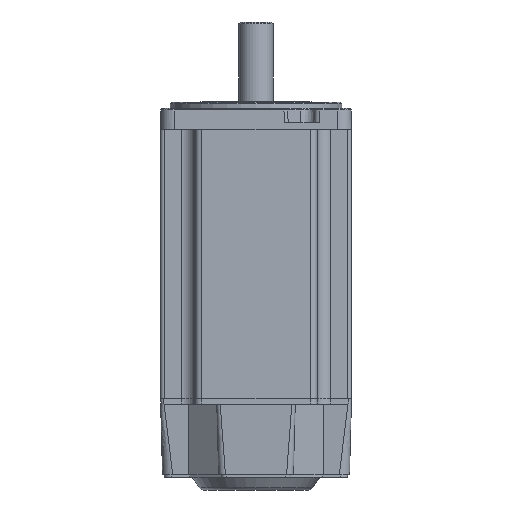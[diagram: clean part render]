
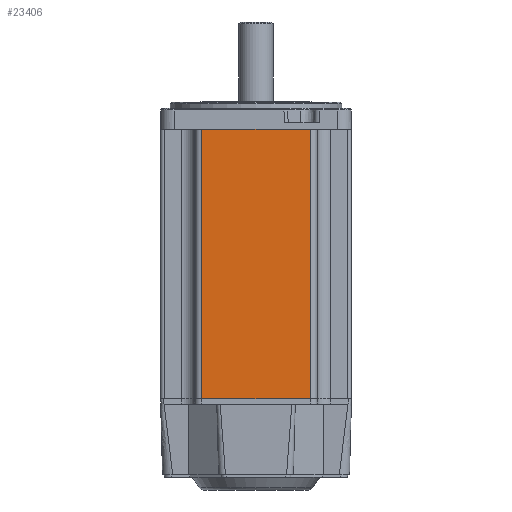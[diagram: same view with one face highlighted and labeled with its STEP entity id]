
A CAD part, front view. The second image highlights one B-rep face of the part: STEP entity #23406.
In plain terms, the highlighted planar face has unit normal (0, -1, 0).
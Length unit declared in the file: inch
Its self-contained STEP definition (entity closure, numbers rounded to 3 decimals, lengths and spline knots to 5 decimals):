
#21517=CARTESIAN_POINT('',(0.995,-1.75,-4.94));
#21518=VERTEX_POINT('',#21517);
#21525=CARTESIAN_POINT('',(-0.995,-1.75,-4.94));
#21526=VERTEX_POINT('',#21525);
#21527=CARTESIAN_POINT('',(-0.995,-1.75,-4.94));
#21528=DIRECTION('',(1.0,0.0,0.0));
#21529=VECTOR('',#21528,1.99);
#21530=LINE('',#21527,#21529);
#21531=EDGE_CURVE('',#21526,#21518,#21530,.T.);
#23364=CARTESIAN_POINT('',(-0.995,-1.75,0.0));
#23365=VERTEX_POINT('',#23364);
#23366=CARTESIAN_POINT('',(-0.995,-1.75,-4.94));
#23367=DIRECTION('',(0.0,0.0,1.0));
#23368=VECTOR('',#23367,4.94);
#23369=LINE('',#23366,#23368);
#23370=EDGE_CURVE('',#21526,#23365,#23369,.T.);
#23383=CARTESIAN_POINT('',(1.5,-1.75,0.0));
#23384=DIRECTION('',(0.0,-1.0,0.0));
#23385=DIRECTION('',(0.0,0.0,-1.0));
#23386=AXIS2_PLACEMENT_3D('',#23383,#23384,#23385);
#23387=PLANE('',#23386);
#23388=ORIENTED_EDGE('',*,*,#21531,.T.);
#23389=CARTESIAN_POINT('',(0.995,-1.75,0.0));
#23390=VERTEX_POINT('',#23389);
#23391=CARTESIAN_POINT('',(0.995,-1.75,0.0));
#23392=DIRECTION('',(0.0,0.0,-1.0));
#23393=VECTOR('',#23392,4.94);
#23394=LINE('',#23391,#23393);
#23395=EDGE_CURVE('',#23390,#21518,#23394,.T.);
#23396=ORIENTED_EDGE('',*,*,#23395,.F.);
#23397=CARTESIAN_POINT('',(-0.995,-1.75,0.0));
#23398=DIRECTION('',(1.0,0.0,0.0));
#23399=VECTOR('',#23398,1.99);
#23400=LINE('',#23397,#23399);
#23401=EDGE_CURVE('',#23365,#23390,#23400,.T.);
#23402=ORIENTED_EDGE('',*,*,#23401,.F.);
#23403=ORIENTED_EDGE('',*,*,#23370,.F.);
#23404=EDGE_LOOP('',(#23388,#23396,#23402,#23403));
#23405=FACE_OUTER_BOUND('',#23404,.T.);
#23406=ADVANCED_FACE('',(#23405),#23387,.T.);
